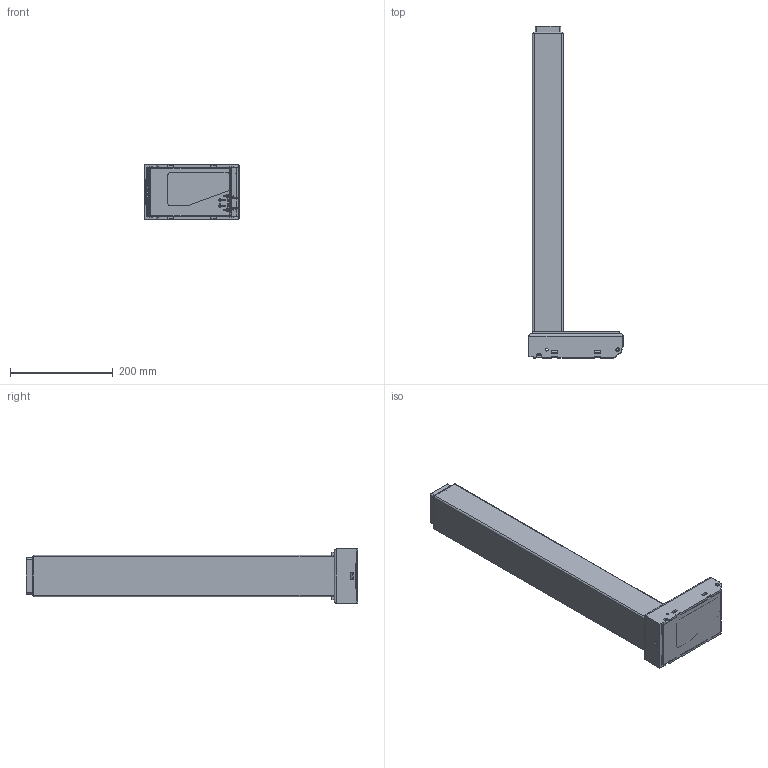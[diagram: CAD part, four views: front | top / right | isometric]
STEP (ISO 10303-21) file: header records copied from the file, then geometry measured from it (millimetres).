
FILE_DESCRIPTION (( 'STEP AP203' ), '1' );
FILE_NAME ('3D_TL26.STEP', '2020-05-11T04:06:39', ( '' ), ( '' ), 'SwSTEP 2.0', 'SolidWorks 2015', '' );
FILE_SCHEMA (( 'CONFIG_CONTROL_DESIGN' ));
Length unit declared in the file: millimetre
Products named in the file (1): 3D_TL26
Bounding box: 183.14 x 645 x 107 mm (x, y, z)
Volume: 839715.4 mm3; surface area: 722804.2 mm2
Topology: 6 solids, 6 shells, 1228 faces, 3198 edges, 1908 vertices
Faces by surface type: cylinder 552, plane 458, sphere 73, bspline 67, torus 58, cone 20
Entity records: 41175 total; most frequent: CARTESIAN_POINT 12070, ORIENTED_EDGE 6236, DIRECTION 6006, EDGE_CURVE 3118, AXIS2_PLACEMENT_3D 2100, VERTEX_POINT 1908, VECTOR 1806, LINE 1806
